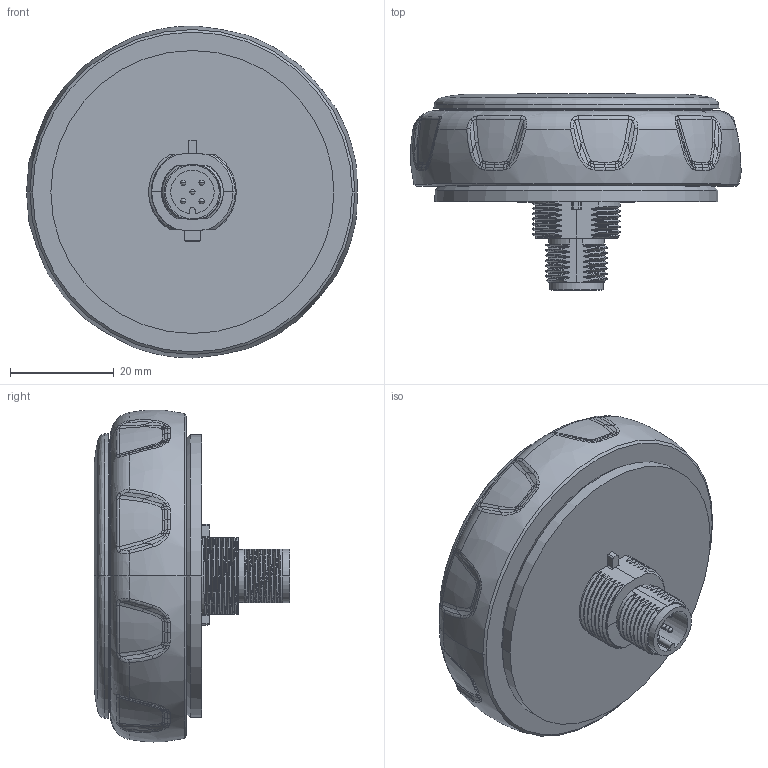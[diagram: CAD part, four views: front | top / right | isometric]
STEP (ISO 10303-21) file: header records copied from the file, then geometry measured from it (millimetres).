
FILE_DESCRIPTION((''),'2;1');
FILE_NAME('TE-MXXX1-XX1X','2025-06-11T',('tsifuent'),(''),'PRO/ENGINEER BY PARAMETRIC TECHNOLOGY CORPORATION, 2016100','PRO/ENGINEER BY PARAMETRIC TECHNOLOGY CORPORATION, 2016100','');
FILE_SCHEMA(('CONFIG_CONTROL_DESIGN'));
Products named in the file (1): TE-MXXX1-XX1X
Bounding box: 63.83 x 37.78 x 64.05 mm (x, y, z)
Volume: 60816.2 mm3; surface area: 11459.8 mm2
Topology: 1 solids, 1 shells, 593 faces, 1573 edges, 982 vertices
Faces by surface type: bspline 434, cylinder 72, plane 31, cone 20, torus 13, extrusion 11, sphere 10, revolution 2
Entity records: 41077 total; most frequent: CARTESIAN_POINT 29533, ORIENTED_EDGE 3126, EDGE_CURVE 1563, DIRECTION 1292, VERTEX_POINT 982, B_SPLINE_CURVE_WITH_KNOTS 940, EDGE_LOOP 603, FACE_OUTER_BOUND 593
